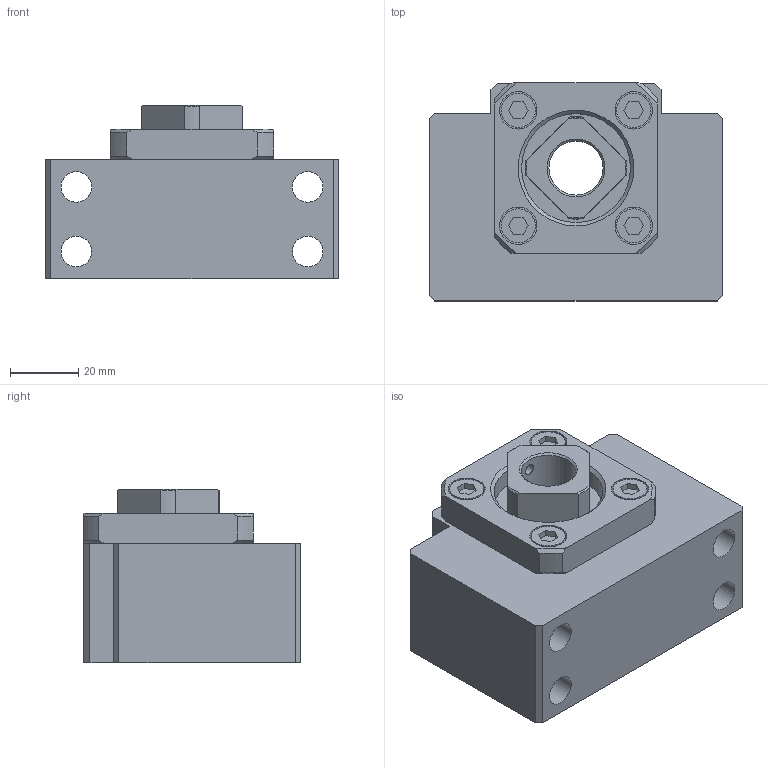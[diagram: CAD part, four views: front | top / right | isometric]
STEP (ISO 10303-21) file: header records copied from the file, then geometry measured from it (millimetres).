
FILE_DESCRIPTION(/* description */ ('STEP AP214'),/* implementation_level */ '2;1');
FILE_NAME(/* name */ 'BK17______CAD_NO_Yes',/* time_stamp */ '2026-09-17T12:59:41+02:00',/* author */ ('License CC BY-ND 4.0'),/* organization */ ('CADENAS'),/* preprocessor_version */ 'ST-DEVELOPER v20',/* originating_system */ 'PARTsolutions',/* authorisation */ ' ');
FILE_SCHEMA (('AUTOMOTIVE_DESIGN {1 0 10303 214 3 1 1}'));
Length unit declared in the file: millimetre
Products named in the file (4): BK17______CAD_NO_Yes; BK 17; BK 17collar; RN 17
Assembly tree (4 placements, depth 2):
  BK17______CAD_NO_Yes
    BK 17
    BK 17collar  x2
    RN 17
Bounding box: 86 x 64 x 51 mm (x, y, z)
Volume: 175451.9 mm3; surface area: 44436.2 mm2
Topology: 4 solids, 4 shells, 162 faces, 386 edges, 257 vertices
Faces by surface type: plane 97, cylinder 41, cone 24
Full cylindrical faces by diameter (mm): 3.242 x1, 4 x1, 9 x4, 10 x4, 11 x4, 14 x4, 15.917 x1, 17 x3, 23.4 x4, 32 x2, 32.1 x1
Entity records: 4623 total; most frequent: CARTESIAN_POINT 923, DIRECTION 730, ORIENTED_EDGE 692, EDGE_CURVE 346, AXIS2_PLACEMENT_3D 271, VERTEX_POINT 250, EDGE_LOOP 228, FACE_BOUND 228
